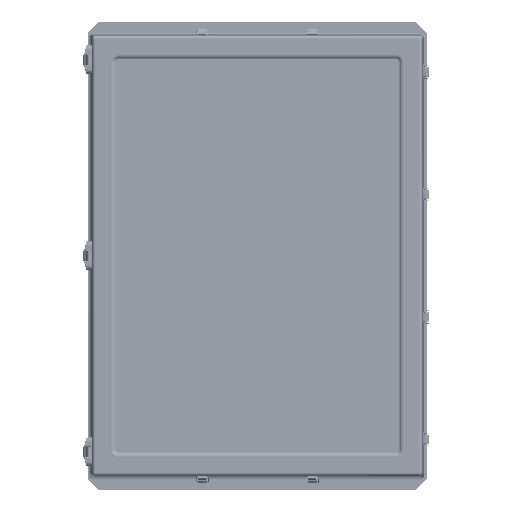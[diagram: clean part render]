
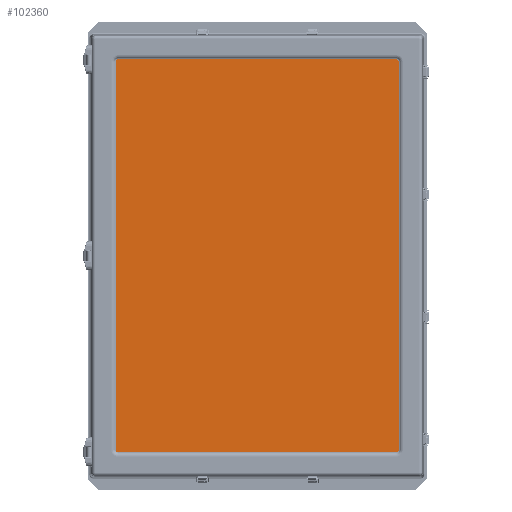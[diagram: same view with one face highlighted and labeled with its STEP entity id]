
A CAD part, top view. The second image highlights one B-rep face of the part: STEP entity #102360.
In plain terms, the highlighted planar face has unit normal (0, 0, 1).
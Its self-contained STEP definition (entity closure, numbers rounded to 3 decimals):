
#11249 = ORIENTED_EDGE ( 'NONE', *, *, #98105, .T. ) ;
#11289 = ORIENTED_EDGE ( 'NONE', *, *, #98103, .T. ) ;
#11337 = ORIENTED_EDGE ( 'NONE', *, *, #98082, .T. ) ;
#11370 = ORIENTED_EDGE ( 'NONE', *, *, #98101, .T. ) ;
#11442 = ORIENTED_EDGE ( 'NONE', *, *, #98099, .T. ) ;
#11449 = ORIENTED_EDGE ( 'NONE', *, *, #98107, .T. ) ;
#11451 = ORIENTED_EDGE ( 'NONE', *, *, #98065, .T. ) ;
#11458 = ORIENTED_EDGE ( 'NONE', *, *, #98087, .T. ) ;
#13050 = CARTESIAN_POINT ( 'NONE',  ( -15.471, -21.188, 1.06 ) ) ;
#13146 = CARTESIAN_POINT ( 'NONE',  ( 15.471, 21.188, 1.06 ) ) ;
#13203 = CARTESIAN_POINT ( 'NONE',  ( -15.471, 21.188, 1.06 ) ) ;
#13409 = CARTESIAN_POINT ( 'NONE',  ( 15.188, -21.471, 1.06 ) ) ;
#15709 = CARTESIAN_POINT ( 'NONE',  ( -15.188, -21.471, 1.06 ) ) ;
#15968 = CARTESIAN_POINT ( 'NONE',  ( -15.188, 21.471, 1.06 ) ) ;
#16180 = CARTESIAN_POINT ( 'NONE',  ( 15.188, 21.471, 1.06 ) ) ;
#16246 = CARTESIAN_POINT ( 'NONE',  ( 15.471, -21.188, 1.06 ) ) ;
#20360 = CARTESIAN_POINT ( 'NONE',  ( -15.188, 21.471, 1.06 ) ) ;
#20362 = DIRECTION ( 'NONE',  ( -1., 0., 0. ) ) ;
#25007 = VERTEX_POINT ( 'NONE', #13050 ) ;
#25310 = VERTEX_POINT ( 'NONE', #13146 ) ;
#25537 = VERTEX_POINT ( 'NONE', #13203 ) ;
#26054 = VERTEX_POINT ( 'NONE', #13409 ) ;
#26468 = VERTEX_POINT ( 'NONE', #15709 ) ;
#26899 = VERTEX_POINT ( 'NONE', #15968 ) ;
#27111 = VERTEX_POINT ( 'NONE', #16180 ) ;
#27177 = VERTEX_POINT ( 'NONE', #16246 ) ;
#27423 = AXIS2_PLACEMENT_3D ( 'NONE', #33282, #33285, #33287 ) ;
#27433 = AXIS2_PLACEMENT_3D ( 'NONE', #33290, #33334, #33336 ) ;
#27435 = AXIS2_PLACEMENT_3D ( 'NONE', #33326, #33345, #33347 ) ;
#27436 = AXIS2_PLACEMENT_3D ( 'NONE', #33331, #33356, #33358 ) ;
#27922 = AXIS2_PLACEMENT_3D ( 'NONE', #114130, #114136, #114137 ) ;
#28233 = LINE ( 'NONE', #20360, #28236 ) ;
#28236 = VECTOR ( 'NONE', #20362, 39.37 ) ;
#28240 = VECTOR ( 'NONE', #33298, 39.37 ) ;
#28244 = LINE ( 'NONE', #33339, #28253 ) ;
#28245 = CIRCLE ( 'NONE', #27423, 0.282 ) ;
#28246 = LINE ( 'NONE', #33283, #28240 ) ;
#28248 = LINE ( 'NONE', #33349, #28255 ) ;
#28253 = VECTOR ( 'NONE', #33340, 39.37 ) ;
#28255 = VECTOR ( 'NONE', #33351, 39.37 ) ;
#28256 = CIRCLE ( 'NONE', #27433, 0.282 ) ;
#28259 = CIRCLE ( 'NONE', #27435, 0.282 ) ;
#28260 = CIRCLE ( 'NONE', #27436, 0.282 ) ;
#33282 = CARTESIAN_POINT ( 'NONE',  ( 15.188, 21.188, 1.06 ) ) ;
#33283 = CARTESIAN_POINT ( 'NONE',  ( -15.471, -21.188, 1.06 ) ) ;
#33285 = DIRECTION ( 'NONE',  ( 0., 0., 1. ) ) ;
#33287 = DIRECTION ( 'NONE',  ( 1., 0., 0. ) ) ;
#33290 = CARTESIAN_POINT ( 'NONE',  ( -15.188, -21.188, 1.06 ) ) ;
#33298 = DIRECTION ( 'NONE',  ( 0., -1., 0. ) ) ;
#33326 = CARTESIAN_POINT ( 'NONE',  ( -15.188, 21.188, 1.06 ) ) ;
#33331 = CARTESIAN_POINT ( 'NONE',  ( 15.188, -21.188, 1.06 ) ) ;
#33334 = DIRECTION ( 'NONE',  ( 0., 0., 1. ) ) ;
#33336 = DIRECTION ( 'NONE',  ( 1., 0., 0. ) ) ;
#33339 = CARTESIAN_POINT ( 'NONE',  ( 15.471, 21.188, 1.06 ) ) ;
#33340 = DIRECTION ( 'NONE',  ( 0., 1., 0. ) ) ;
#33345 = DIRECTION ( 'NONE',  ( 0., 0., 1. ) ) ;
#33347 = DIRECTION ( 'NONE',  ( 1., 0., 0. ) ) ;
#33349 = CARTESIAN_POINT ( 'NONE',  ( 15.188, -21.471, 1.06 ) ) ;
#33351 = DIRECTION ( 'NONE',  ( 1., 0., 0. ) ) ;
#33356 = DIRECTION ( 'NONE',  ( 0., 0., 1. ) ) ;
#33358 = DIRECTION ( 'NONE',  ( 1., 0., 0. ) ) ;
#64470 = EDGE_LOOP ( 'NONE', ( #11370, #11337, #11451, #11289, #11458, #11442, #11249, #11449 ) ) ;
#65892 = FACE_OUTER_BOUND ( 'NONE', #64470, .T. ) ;
#98065 = EDGE_CURVE ( 'NONE', #27111, #26899, #28233, .T. ) ;
#98082 = EDGE_CURVE ( 'NONE', #25310, #27111, #28245, .T. ) ;
#98087 = EDGE_CURVE ( 'NONE', #25537, #25007, #28246, .T. ) ;
#98099 = EDGE_CURVE ( 'NONE', #25007, #26468, #28256, .T. ) ;
#98101 = EDGE_CURVE ( 'NONE', #27177, #25310, #28244, .T. ) ;
#98103 = EDGE_CURVE ( 'NONE', #26899, #25537, #28259, .T. ) ;
#98105 = EDGE_CURVE ( 'NONE', #26468, #26054, #28248, .T. ) ;
#98107 = EDGE_CURVE ( 'NONE', #26054, #27177, #28260, .T. ) ;
#102360 = ADVANCED_FACE ( 'NONE', ( #65892 ), #114133, .T. ) ;
#114130 = CARTESIAN_POINT ( 'NONE',  ( -15.188, 21.188, 1.06 ) ) ;
#114133 = PLANE ( 'NONE',  #27922 ) ;
#114136 = DIRECTION ( 'NONE',  ( 0., 0., 1. ) ) ;
#114137 = DIRECTION ( 'NONE',  ( 1., 0., 0. ) ) ;
